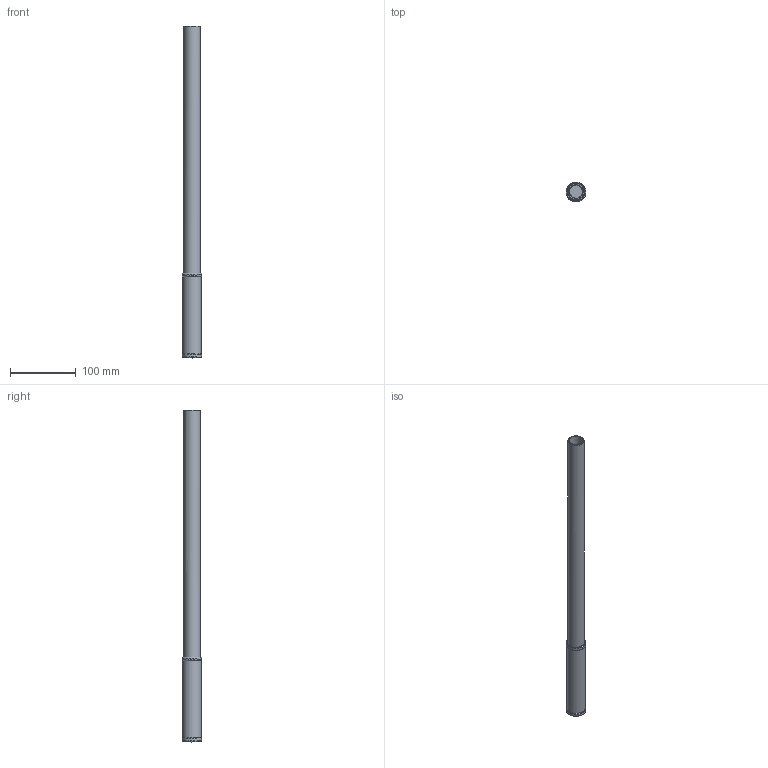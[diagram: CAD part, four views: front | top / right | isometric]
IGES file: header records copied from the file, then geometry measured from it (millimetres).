
Global section: file name: 6800.0052; native system: Autodesk Inventor 2026; preprocessor: unknown; author: christian.scardovi; date: 20260407.153040; units: millimetre
Bounding box: 29.99 x 29.99 x 503.31 mm (x, y, z)
Volume: 105808.6 mm3; surface area: 93677.8 mm2
Topology: 2 solids, 2 shells, 20 faces, 38 edges, 23 vertices
Faces by surface type: bspline 20
